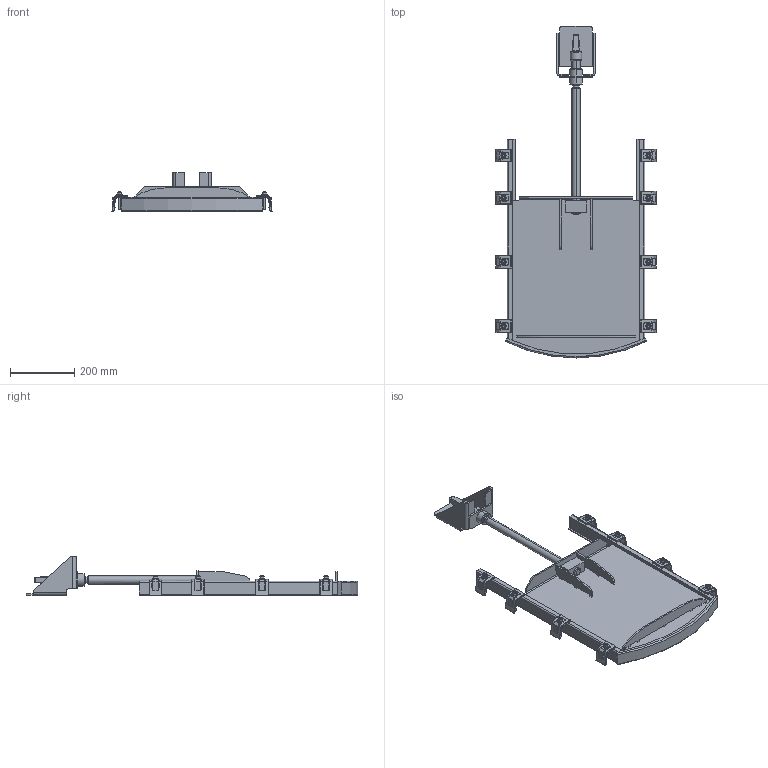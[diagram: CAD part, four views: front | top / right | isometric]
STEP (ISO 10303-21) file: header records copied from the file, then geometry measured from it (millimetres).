
FILE_DESCRIPTION (( 'STEP AP214' ), '1' );
FILE_NAME ('LW 350 gerad betoniert.STEP', '2022-05-19T04:46:19', ( '' ), ( '' ), 'SwSTEP 2.0', 'SolidWorks 2021', '' );
FILE_SCHEMA (( 'AUTOMOTIVE_DESIGN' ));
Length unit declared in the file: millimetre
Products named in the file (1): LW 350 gerad betoniert
Bounding box: 499.57 x 1035 x 121 mm (x, y, z)
Volume: 3312164 mm3; surface area: 967634.6 mm2
Topology: 1 solids, 1 shells, 1311 faces, 3094 edges, 1732 vertices
Faces by surface type: cylinder 515, plane 376, cone 118, sphere 112, torus 104, bspline 86
Entity records: 54907 total; most frequent: CARTESIAN_POINT 11554, DIRECTION 6268, ORIENTED_EDGE 5956, EDGE_CURVE 2978, AXIS2_PLACEMENT_3D 2488, VERTEX_POINT 1716, EDGE_LOOP 1392, UNCERTAINTY_MEASURE_WITH_UNIT 1314
